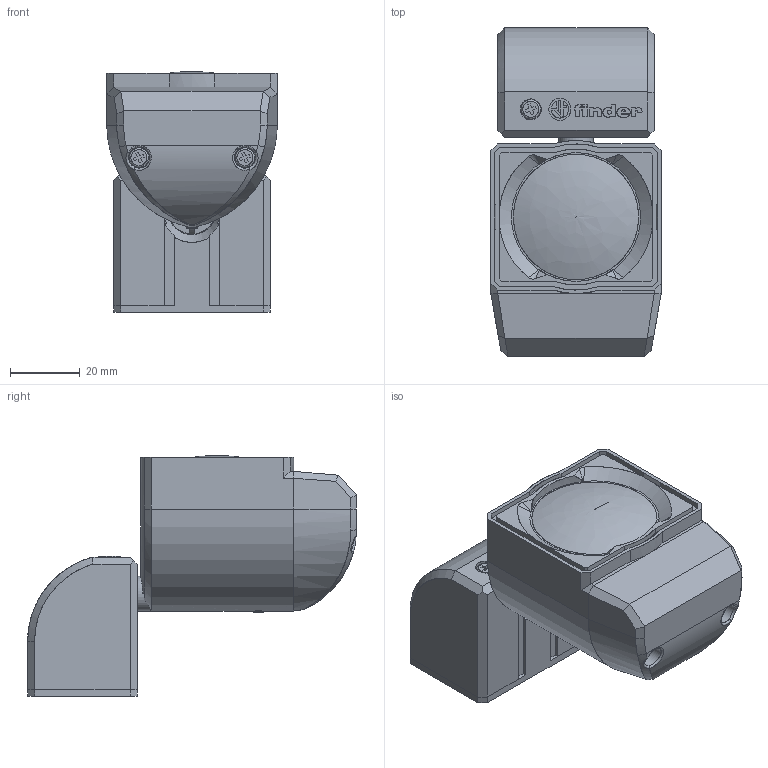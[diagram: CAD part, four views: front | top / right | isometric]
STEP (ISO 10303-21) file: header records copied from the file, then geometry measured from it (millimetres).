
FILE_DESCRIPTION(('STEP AP214'),'2;1');
FILE_NAME('1801_rev01.stp','2015-05-20T17:21:32',(''),(''),'2007.1.106','THINKDESIGN','');
FILE_SCHEMA(('AUTOMOTIVE_DESIGN'));
Length unit declared in the file: millimetre
Products named in the file (1): top
Bounding box: 49 x 94.5 x 69.23 mm (x, y, z)
Surface area: 34352.8 mm2 (no closed solid volume)
Topology: 0 solids, 0 shells, 403 faces, 2350 edges, 2324 vertices
Faces by surface type: plane 251, bspline 90, cylinder 62
Full cylindrical faces by diameter (mm): 3 x1, 5 x1, 5.6 x1, 6 x3, 6.342 x1, 8 x1, 10 x2
Entity records: 23402 total; most frequent: CARTESIAN_POINT 11342, DIRECTION 2399, COMPOSITE_CURVE_SEGMENT 2337, TRIMMED_CURVE 1623, VECTOR 1501, LINE 1501, AXIS2_PLACEMENT_3D 449, B_SPLINE_CURVE_WITH_KNOTS 407
